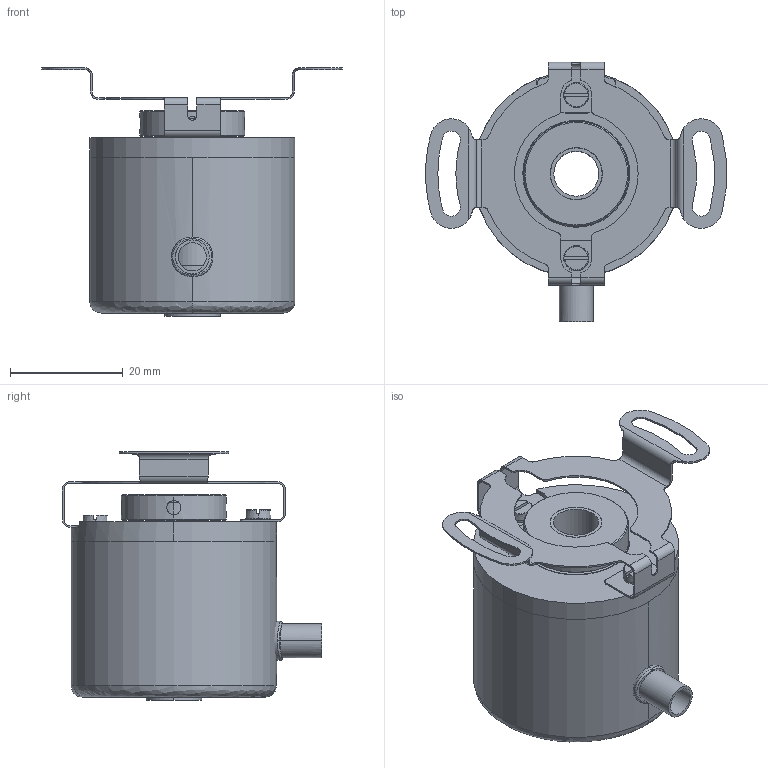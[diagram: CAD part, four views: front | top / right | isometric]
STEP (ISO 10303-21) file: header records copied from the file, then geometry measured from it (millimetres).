
FILE_DESCRIPTION (( 'STEP AP214' ), '1' );
FILE_NAME ('8.3620.54XE.XXXX.STEP', '2014-12-09T12:01:55', ( 'HeirlerN' ), ( 'Microsoft' ), 'SwSTEP 2.0', 'SolidWorks 2013', '' );
FILE_SCHEMA (( 'AUTOMOTIVE_DESIGN' ));
Length unit declared in the file: millimetre
Products named in the file (1): 8.3620.54XE.XXXX
Bounding box: 53.5 x 46.05 x 44.15 mm (x, y, z)
Volume: 16648.5 mm3; surface area: 19665.7 mm2
Topology: 11 solids, 11 shells, 392 faces, 990 edges, 632 vertices
Faces by surface type: cylinder 200, plane 107, bspline 45, cone 40
Entity records: 18673 total; most frequent: CARTESIAN_POINT 4856, DIRECTION 1986, ORIENTED_EDGE 1956, EDGE_CURVE 978, AXIS2_PLACEMENT_3D 792, VERTEX_POINT 632, EDGE_LOOP 452, CIRCLE 444
